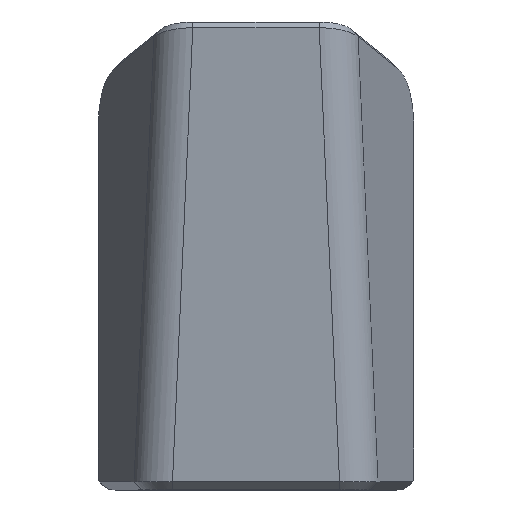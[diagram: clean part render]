
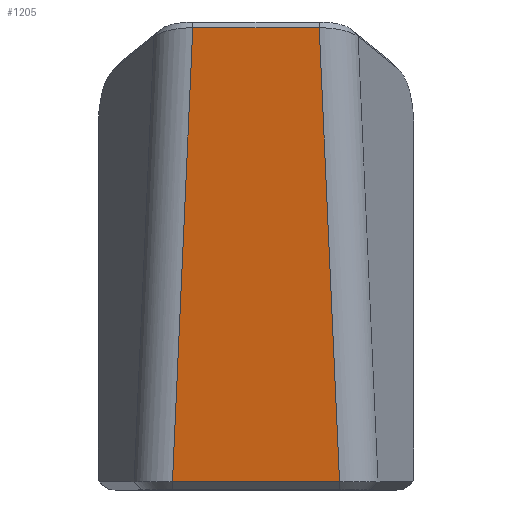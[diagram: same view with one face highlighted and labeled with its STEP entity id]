
A CAD part, top view. The second image highlights one B-rep face of the part: STEP entity #1205.
In plain terms, the highlighted planar face has unit normal (0, -0.122, 0.993).
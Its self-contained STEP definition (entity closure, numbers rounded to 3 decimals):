
#1167=CARTESIAN_POINT('',(0.,-7.848,63.733));
#1168=DIRECTION('',(0.,-0.122,0.993));
#1169=DIRECTION('',(0.,-0.993,-0.122));
#1170=AXIS2_PLACEMENT_3D('',#1167,#1168,#1169);
#1171=PLANE('',#1170);
#1172=CARTESIAN_POINT('',(-7.772,319.81,104.082));
#1173=VERTEX_POINT('',#1172);
#1174=CARTESIAN_POINT('',(-10.274,263.991,97.207));
#1175=VERTEX_POINT('',#1174);
#1176=CARTESIAN_POINT('',(-7.772,319.81,104.082));
#1177=DIRECTION('',(-0.044,-0.992,-0.122));
#1178=VECTOR('',#1177,56.298);
#1179=LINE('',#1176,#1178);
#1180=EDGE_CURVE('',#1173,#1175,#1179,.T.);
#1181=ORIENTED_EDGE('',*,*,#1180,.T.);
#1182=CARTESIAN_POINT('',(10.274,263.993,97.208));
#1183=VERTEX_POINT('',#1182);
#1184=CARTESIAN_POINT('',(-10.274,263.989,97.208));
#1185=CARTESIAN_POINT('',(10.274,263.993,97.208));
#1186=B_SPLINE_CURVE_WITH_KNOTS('',1,(#1184,#1185),.UNSPECIFIED.,.F.,.F.,(2,2),(0.,20.547),.UNSPECIFIED.);
#1187=EDGE_CURVE('',#1175,#1183,#1186,.T.);
#1188=ORIENTED_EDGE('',*,*,#1187,.T.);
#1189=CARTESIAN_POINT('',(7.772,319.81,104.082));
#1190=VERTEX_POINT('',#1189);
#1191=CARTESIAN_POINT('',(10.274,263.993,97.208));
#1192=DIRECTION('',(-0.044,0.992,0.122));
#1193=VECTOR('',#1192,56.295);
#1194=LINE('',#1191,#1193);
#1195=EDGE_CURVE('',#1183,#1190,#1194,.T.);
#1196=ORIENTED_EDGE('',*,*,#1195,.T.);
#1197=CARTESIAN_POINT('',(7.772,319.81,104.082));
#1198=DIRECTION('',(-1.,-0.,0.));
#1199=VECTOR('',#1198,15.544);
#1200=LINE('',#1197,#1199);
#1201=EDGE_CURVE('',#1190,#1173,#1200,.T.);
#1202=ORIENTED_EDGE('',*,*,#1201,.T.);
#1203=EDGE_LOOP('',(#1181,#1188,#1196,#1202));
#1204=FACE_BOUND('',#1203,.T.);
#1205=ADVANCED_FACE('',(#1204),#1171,.T.);
